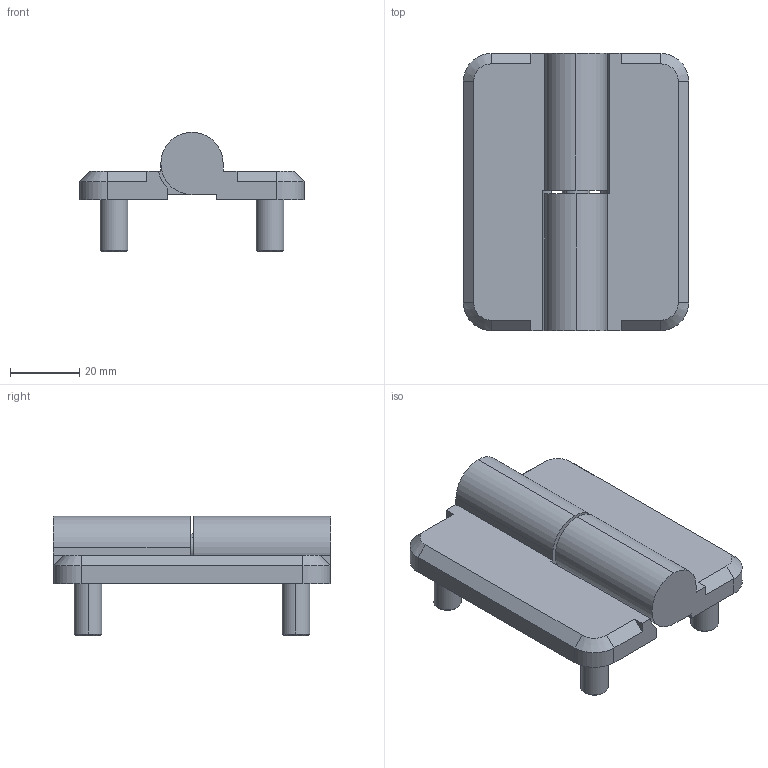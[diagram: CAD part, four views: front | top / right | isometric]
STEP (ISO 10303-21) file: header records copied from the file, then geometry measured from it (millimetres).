
FILE_DESCRIPTION (( 'STEP AP214' ), '1' );
FILE_NAME ('3.ZN67.002.STEP', '2010-02-22T18:34:01', ( '£ukaszC' ), ( '' ), 'SwSTEP 2.0', 'SolidWorks 2008', '' );
FILE_SCHEMA (( 'AUTOMOTIVE_DESIGN' ));
Length unit declared in the file: millimetre
Products named in the file (4): 3.ZN67.002; ZN67.002.03_Domyœlna; 3.ZN67.001.04_Domyœlna; 3.ZN67.001.05_Domyœlna
Assembly tree (7 placements, depth 2):
  3.ZN67.002
    3.ZN67.001.05_Domyœlna  x4
    3.ZN67.001.04_Domyœlna
    ZN67.002.03_Domyœlna  x2
Bounding box: 65 x 80 x 34.5 mm (x, y, z)
Volume: 53974.6 mm3; surface area: 21450.7 mm2
Topology: 7 solids, 7 shells, 111 faces, 254 edges, 165 vertices
Faces by surface type: plane 47, cylinder 40, cone 24
Entity records: 1594 total; most frequent: DIRECTION 289, CARTESIAN_POINT 251, ORIENTED_EDGE 230, EDGE_CURVE 115, AXIS2_PLACEMENT_3D 113, VERTEX_POINT 75, LINE 63, VECTOR 63
